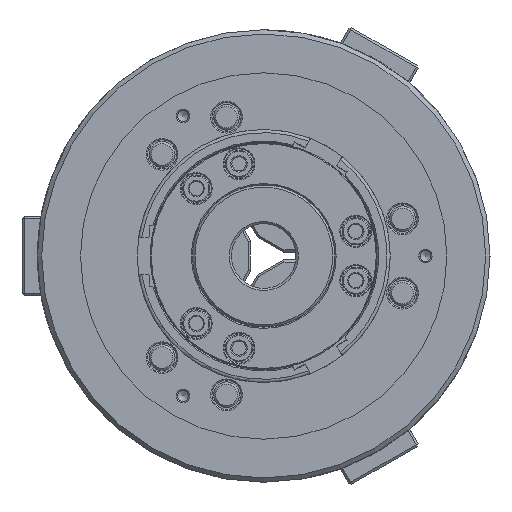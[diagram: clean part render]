
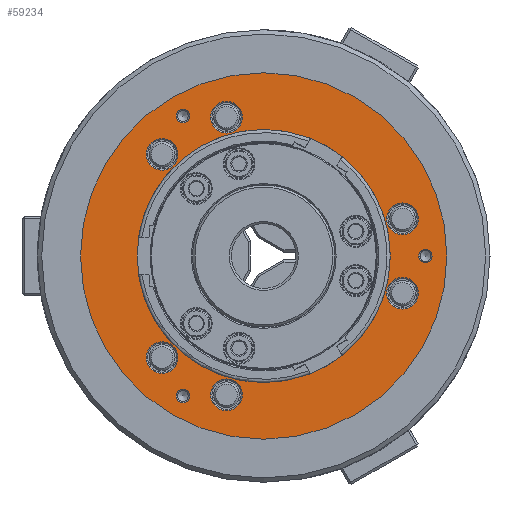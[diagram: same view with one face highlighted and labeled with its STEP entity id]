
A CAD part, left-side view. The second image highlights one B-rep face of the part: STEP entity #59234.
In plain terms, the highlighted planar face has unit normal (-1, 0, 0).
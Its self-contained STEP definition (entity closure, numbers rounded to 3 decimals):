
#725 = VERTEX_POINT ( 'NONE', #46399 ) ;
#796 = VERTEX_POINT ( 'NONE', #6621 ) ;
#1877 = FACE_BOUND ( 'NONE', #6036, .T. ) ;
#3372 = EDGE_CURVE ( 'NONE', #12124, #12124, #68153, .T. ) ;
#3838 = CIRCLE ( 'NONE', #40082, 7.35 ) ;
#4313 = ORIENTED_EDGE ( 'NONE', *, *, #50501, .T. ) ;
#6036 = EDGE_LOOP ( 'NONE', ( #59553 ) ) ;
#6267 = FACE_BOUND ( 'NONE', #59732, .T. ) ;
#6621 = CARTESIAN_POINT ( 'NONE',  ( -86., 0., 85. ) ) ;
#6985 = FACE_BOUND ( 'NONE', #65799, .T. ) ;
#7723 = FACE_BOUND ( 'NONE', #17141, .T. ) ;
#8555 = AXIS2_PLACEMENT_3D ( 'NONE', #49714, #27024, #33274 ) ;
#8689 = AXIS2_PLACEMENT_3D ( 'NONE', #55312, #70995, #11070 ) ;
#8813 = DIRECTION ( 'NONE',  ( 0., 0., 1. ) ) ;
#9083 = EDGE_LOOP ( 'NONE', ( #30723 ) ) ;
#9869 = CARTESIAN_POINT ( 'NONE',  ( -86., 0., 0. ) ) ;
#10047 = AXIS2_PLACEMENT_3D ( 'NONE', #59136, #43046, #62872 ) ;
#11070 = DIRECTION ( 'NONE',  ( 0., 0., -1. ) ) ;
#11484 = EDGE_LOOP ( 'NONE', ( #24787 ) ) ;
#11912 = EDGE_LOOP ( 'NONE', ( #53736 ) ) ;
#12112 = FACE_BOUND ( 'NONE', #11912, .T. ) ;
#12124 = VERTEX_POINT ( 'NONE', #13223 ) ;
#12222 = VERTEX_POINT ( 'NONE', #22825 ) ;
#12393 = CARTESIAN_POINT ( 'NONE',  ( -86., 37.5, -61.852 ) ) ;
#13223 = CARTESIAN_POINT ( 'NONE',  ( -86., 47.146, 39.796 ) ) ;
#14169 = CARTESIAN_POINT ( 'NONE',  ( -86., -75., 0. ) ) ;
#14306 = DIRECTION ( 'NONE',  ( -1., 0., 0. ) ) ;
#15965 = ORIENTED_EDGE ( 'NONE', *, *, #59557, .F. ) ;
#16256 = DIRECTION ( 'NONE',  ( -1., 0., 0. ) ) ;
#16299 = CARTESIAN_POINT ( 'NONE',  ( -86., -64.403, -17.257 ) ) ;
#17141 = EDGE_LOOP ( 'NONE', ( #15965 ) ) ;
#17167 = CARTESIAN_POINT ( 'NONE',  ( -86., -75., 3.1 ) ) ;
#17376 = ORIENTED_EDGE ( 'NONE', *, *, #58389, .T. ) ;
#17704 = VERTEX_POINT ( 'NONE', #40008 ) ;
#18328 = VERTEX_POINT ( 'NONE', #28182 ) ;
#18333 = DIRECTION ( 'NONE',  ( 1., 0., 0. ) ) ;
#19058 = FACE_OUTER_BOUND ( 'NONE', #26452, .T. ) ;
#20218 = AXIS2_PLACEMENT_3D ( 'NONE', #28556, #18333, #35129 ) ;
#22094 = CIRCLE ( 'NONE', #62925, 3.1 ) ;
#22825 = CARTESIAN_POINT ( 'NONE',  ( -86., 17.257, 57.053 ) ) ;
#24787 = ORIENTED_EDGE ( 'NONE', *, *, #50595, .F. ) ;
#25342 = EDGE_CURVE ( 'NONE', #66816, #66816, #22094, .T. ) ;
#26452 = EDGE_LOOP ( 'NONE', ( #62550 ) ) ;
#26673 = DIRECTION ( 'NONE',  ( 0., 0., 1. ) ) ;
#27024 = DIRECTION ( 'NONE',  ( 1., 0., 0. ) ) ;
#28182 = CARTESIAN_POINT ( 'NONE',  ( -86., 47.146, -54.496 ) ) ;
#28366 = AXIS2_PLACEMENT_3D ( 'NONE', #9869, #32178, #26673 ) ;
#28386 = CIRCLE ( 'NONE', #66910, 3.1 ) ;
#28556 = CARTESIAN_POINT ( 'NONE',  ( -86., 85., 0. ) ) ;
#28623 = ORIENTED_EDGE ( 'NONE', *, *, #3372, .T. ) ;
#28898 = CARTESIAN_POINT ( 'NONE',  ( -86., 17.257, -71.753 ) ) ;
#29022 = CARTESIAN_POINT ( 'NONE',  ( -86., 0., 58.75 ) ) ;
#29192 = VERTEX_POINT ( 'NONE', #12393 ) ;
#29264 = FACE_BOUND ( 'NONE', #11484, .T. ) ;
#29433 = ORIENTED_EDGE ( 'NONE', *, *, #50187, .T. ) ;
#30014 = FACE_BOUND ( 'NONE', #70610, .T. ) ;
#30452 = EDGE_CURVE ( 'NONE', #29192, #29192, #35283, .T. ) ;
#30723 = ORIENTED_EDGE ( 'NONE', *, *, #36764, .T. ) ;
#32178 = DIRECTION ( 'NONE',  ( -1., 0., 0. ) ) ;
#33274 = DIRECTION ( 'NONE',  ( 0., 0., -1. ) ) ;
#34528 = VERTEX_POINT ( 'NONE', #29022 ) ;
#35129 = DIRECTION ( 'NONE',  ( 0., 0., -1. ) ) ;
#35283 = CIRCLE ( 'NONE', #62102, 3.1 ) ;
#35397 = CIRCLE ( 'NONE', #28366, 58.75 ) ;
#35504 = FACE_BOUND ( 'NONE', #55751, .T. ) ;
#36073 = CARTESIAN_POINT ( 'NONE',  ( -86., 37.5, -64.952 ) ) ;
#36303 = EDGE_LOOP ( 'NONE', ( #17376 ) ) ;
#36764 = EDGE_CURVE ( 'NONE', #725, #725, #40441, .T. ) ;
#38935 = DIRECTION ( 'NONE',  ( 0., 0., 1. ) ) ;
#39192 = CARTESIAN_POINT ( 'NONE',  ( -86., 37.5, 68.052 ) ) ;
#39480 = DIRECTION ( 'NONE',  ( 0., 0., 1. ) ) ;
#40008 = CARTESIAN_POINT ( 'NONE',  ( -86., -64.403, -24.607 ) ) ;
#40082 = AXIS2_PLACEMENT_3D ( 'NONE', #16299, #49204, #49945 ) ;
#40441 = CIRCLE ( 'NONE', #10047, 7.35 ) ;
#41245 = ORIENTED_EDGE ( 'NONE', *, *, #58423, .T. ) ;
#41349 = FACE_BOUND ( 'NONE', #36303, .T. ) ;
#42666 = DIRECTION ( 'NONE',  ( -1., 0., 0. ) ) ;
#43046 = DIRECTION ( 'NONE',  ( 1., 0., 0. ) ) ;
#44746 = CIRCLE ( 'NONE', #8555, 7.35 ) ;
#45202 = DIRECTION ( 'NONE',  ( 0., 0., -1. ) ) ;
#46399 = CARTESIAN_POINT ( 'NONE',  ( -86., -64.403, 9.907 ) ) ;
#48185 = CIRCLE ( 'NONE', #56367, 7.35 ) ;
#49204 = DIRECTION ( 'NONE',  ( 1., 0., 0. ) ) ;
#49714 = CARTESIAN_POINT ( 'NONE',  ( -86., 17.257, 64.403 ) ) ;
#49945 = DIRECTION ( 'NONE',  ( 0., 0., -1. ) ) ;
#50187 = EDGE_CURVE ( 'NONE', #17704, #17704, #3838, .T. ) ;
#50501 = EDGE_CURVE ( 'NONE', #12222, #12222, #44746, .T. ) ;
#50595 = EDGE_CURVE ( 'NONE', #34528, #34528, #35397, .T. ) ;
#52334 = FACE_BOUND ( 'NONE', #9083, .T. ) ;
#52852 = CIRCLE ( 'NONE', #67959, 7.35 ) ;
#52880 = DIRECTION ( 'NONE',  ( -1., 0., 0. ) ) ;
#53652 = DIRECTION ( 'NONE',  ( 1., 0., 0. ) ) ;
#53736 = ORIENTED_EDGE ( 'NONE', *, *, #25342, .F. ) ;
#54355 = DIRECTION ( 'NONE',  ( 0., 0., 1. ) ) ;
#55312 = CARTESIAN_POINT ( 'NONE',  ( -86., 47.146, 47.146 ) ) ;
#55628 = VERTEX_POINT ( 'NONE', #39192 ) ;
#55735 = CARTESIAN_POINT ( 'NONE',  ( -86., 37.5, 64.952 ) ) ;
#55751 = EDGE_LOOP ( 'NONE', ( #28623 ) ) ;
#56258 = AXIS2_PLACEMENT_3D ( 'NONE', #64327, #14306, #8813 ) ;
#56367 = AXIS2_PLACEMENT_3D ( 'NONE', #60901, #61634, #45202 ) ;
#58389 = EDGE_CURVE ( 'NONE', #62615, #62615, #52852, .T. ) ;
#58423 = EDGE_CURVE ( 'NONE', #18328, #18328, #48185, .T. ) ;
#59136 = CARTESIAN_POINT ( 'NONE',  ( -86., -64.403, 17.257 ) ) ;
#59234 = ADVANCED_FACE ( 'NONE', ( #7723, #12112, #41349, #30014, #35504, #6985, #1877, #52334, #6267, #29264, #19058 ), #63600, .F. ) ;
#59553 = ORIENTED_EDGE ( 'NONE', *, *, #30452, .F. ) ;
#59557 = EDGE_CURVE ( 'NONE', #55628, #55628, #28386, .T. ) ;
#59732 = EDGE_LOOP ( 'NONE', ( #29433 ) ) ;
#60901 = CARTESIAN_POINT ( 'NONE',  ( -86., 47.146, -47.146 ) ) ;
#61634 = DIRECTION ( 'NONE',  ( 1., 0., 0. ) ) ;
#62102 = AXIS2_PLACEMENT_3D ( 'NONE', #36073, #52880, #39480 ) ;
#62550 = ORIENTED_EDGE ( 'NONE', *, *, #68124, .T. ) ;
#62615 = VERTEX_POINT ( 'NONE', #28898 ) ;
#62872 = DIRECTION ( 'NONE',  ( 0., 0., -1. ) ) ;
#62925 = AXIS2_PLACEMENT_3D ( 'NONE', #14169, #42666, #54355 ) ;
#63600 = PLANE ( 'NONE',  #20218 ) ;
#64327 = CARTESIAN_POINT ( 'NONE',  ( -86., 0., 0. ) ) ;
#65548 = CIRCLE ( 'NONE', #56258, 85. ) ;
#65799 = EDGE_LOOP ( 'NONE', ( #4313 ) ) ;
#66816 = VERTEX_POINT ( 'NONE', #17167 ) ;
#66910 = AXIS2_PLACEMENT_3D ( 'NONE', #55735, #16256, #38935 ) ;
#67959 = AXIS2_PLACEMENT_3D ( 'NONE', #71129, #53652, #71496 ) ;
#68124 = EDGE_CURVE ( 'NONE', #796, #796, #65548, .T. ) ;
#68153 = CIRCLE ( 'NONE', #8689, 7.35 ) ;
#70610 = EDGE_LOOP ( 'NONE', ( #41245 ) ) ;
#70995 = DIRECTION ( 'NONE',  ( 1., 0., 0. ) ) ;
#71129 = CARTESIAN_POINT ( 'NONE',  ( -86., 17.257, -64.403 ) ) ;
#71496 = DIRECTION ( 'NONE',  ( 0., 0., -1. ) ) ;
